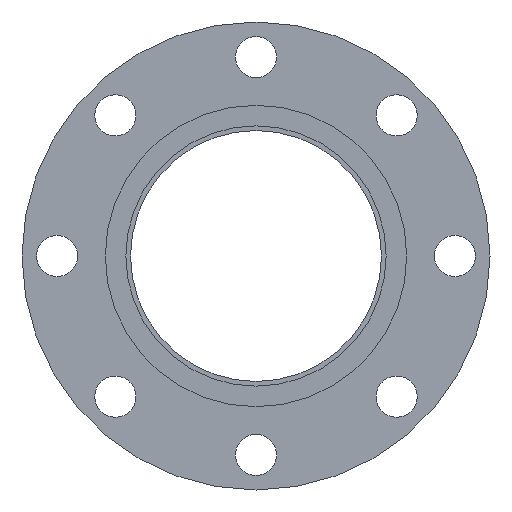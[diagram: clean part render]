
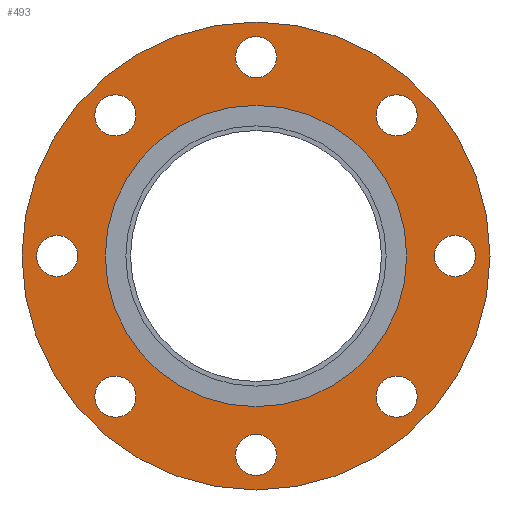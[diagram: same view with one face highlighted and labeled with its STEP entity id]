
A CAD part, left-side view. The second image highlights one B-rep face of the part: STEP entity #493.
In plain terms, the highlighted planar face has unit normal (-1, 0, 0).
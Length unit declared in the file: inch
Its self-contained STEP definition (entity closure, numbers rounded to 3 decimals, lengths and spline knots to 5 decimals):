
#49=FACE_BOUND('',#119,.T.);
#50=FACE_BOUND('',#120,.T.);
#51=FACE_BOUND('',#121,.T.);
#52=FACE_BOUND('',#122,.T.);
#53=FACE_BOUND('',#123,.T.);
#54=FACE_BOUND('',#124,.T.);
#55=FACE_BOUND('',#125,.T.);
#56=FACE_BOUND('',#126,.T.);
#57=FACE_BOUND('',#127,.T.);
#72=PLANE('',#571);
#92=FACE_OUTER_BOUND('',#118,.T.);
#118=EDGE_LOOP('',(#397,#398));
#119=EDGE_LOOP('',(#399));
#120=EDGE_LOOP('',(#400));
#121=EDGE_LOOP('',(#401));
#122=EDGE_LOOP('',(#402));
#123=EDGE_LOOP('',(#403));
#124=EDGE_LOOP('',(#404));
#125=EDGE_LOOP('',(#405));
#126=EDGE_LOOP('',(#406));
#127=EDGE_LOOP('',(#407,#408));
#173=CIRCLE('',#520,0.44);
#175=CIRCLE('',#523,0.44);
#177=CIRCLE('',#526,0.44);
#179=CIRCLE('',#529,0.44);
#181=CIRCLE('',#532,0.44);
#183=CIRCLE('',#535,0.44);
#185=CIRCLE('',#538,0.44);
#187=CIRCLE('',#541,0.44);
#206=CIRCLE('',#569,3.22);
#207=CIRCLE('',#570,3.22);
#208=CIRCLE('',#572,5.);
#209=CIRCLE('',#573,5.);
#217=VERTEX_POINT('',#776);
#219=VERTEX_POINT('',#782);
#221=VERTEX_POINT('',#788);
#223=VERTEX_POINT('',#794);
#225=VERTEX_POINT('',#800);
#227=VERTEX_POINT('',#806);
#229=VERTEX_POINT('',#812);
#231=VERTEX_POINT('',#818);
#250=VERTEX_POINT('',#870);
#251=VERTEX_POINT('',#871);
#252=VERTEX_POINT('',#876);
#253=VERTEX_POINT('',#877);
#262=EDGE_CURVE('',#217,#217,#173,.T.);
#265=EDGE_CURVE('',#219,#219,#175,.T.);
#268=EDGE_CURVE('',#221,#221,#177,.T.);
#271=EDGE_CURVE('',#223,#223,#179,.T.);
#274=EDGE_CURVE('',#225,#225,#181,.T.);
#277=EDGE_CURVE('',#227,#227,#183,.T.);
#280=EDGE_CURVE('',#229,#229,#185,.T.);
#283=EDGE_CURVE('',#231,#231,#187,.T.);
#306=EDGE_CURVE('',#250,#251,#206,.T.);
#307=EDGE_CURVE('',#251,#250,#207,.T.);
#309=EDGE_CURVE('',#252,#253,#208,.T.);
#310=EDGE_CURVE('',#253,#252,#209,.T.);
#397=ORIENTED_EDGE('',*,*,#309,.F.);
#398=ORIENTED_EDGE('',*,*,#310,.F.);
#399=ORIENTED_EDGE('',*,*,#262,.T.);
#400=ORIENTED_EDGE('',*,*,#265,.T.);
#401=ORIENTED_EDGE('',*,*,#268,.T.);
#402=ORIENTED_EDGE('',*,*,#271,.T.);
#403=ORIENTED_EDGE('',*,*,#274,.T.);
#404=ORIENTED_EDGE('',*,*,#277,.T.);
#405=ORIENTED_EDGE('',*,*,#280,.T.);
#406=ORIENTED_EDGE('',*,*,#283,.T.);
#407=ORIENTED_EDGE('',*,*,#306,.T.);
#408=ORIENTED_EDGE('',*,*,#307,.T.);
#493=ADVANCED_FACE('',(#92,#49,#50,#51,#52,#53,#54,#55,#56,#57),#72,.T.);
#520=AXIS2_PLACEMENT_3D('',#778,#604,#605);
#523=AXIS2_PLACEMENT_3D('',#784,#611,#612);
#526=AXIS2_PLACEMENT_3D('',#790,#618,#619);
#529=AXIS2_PLACEMENT_3D('',#796,#625,#626);
#532=AXIS2_PLACEMENT_3D('',#802,#632,#633);
#535=AXIS2_PLACEMENT_3D('',#808,#639,#640);
#538=AXIS2_PLACEMENT_3D('',#814,#646,#647);
#541=AXIS2_PLACEMENT_3D('',#820,#653,#654);
#569=AXIS2_PLACEMENT_3D('',#872,#713,#714);
#570=AXIS2_PLACEMENT_3D('',#873,#715,#716);
#571=AXIS2_PLACEMENT_3D('',#875,#718,#719);
#572=AXIS2_PLACEMENT_3D('',#878,#720,#721);
#573=AXIS2_PLACEMENT_3D('',#879,#722,#723);
#604=DIRECTION('center_axis',(1.,0.,0.));
#605=DIRECTION('ref_axis',(0.,0.707,0.707));
#611=DIRECTION('center_axis',(1.,0.,0.));
#612=DIRECTION('ref_axis',(0.,1.,0.));
#618=DIRECTION('center_axis',(1.,0.,0.));
#619=DIRECTION('ref_axis',(0.,0.707,-0.707));
#625=DIRECTION('center_axis',(1.,0.,0.));
#626=DIRECTION('ref_axis',(0.,0.,-1.));
#632=DIRECTION('center_axis',(1.,0.,0.));
#633=DIRECTION('ref_axis',(0.,-0.707,-0.707));
#639=DIRECTION('center_axis',(1.,0.,0.));
#640=DIRECTION('ref_axis',(0.,-1.,0.));
#646=DIRECTION('center_axis',(1.,0.,0.));
#647=DIRECTION('ref_axis',(0.,-0.707,0.707));
#653=DIRECTION('center_axis',(1.,0.,0.));
#654=DIRECTION('ref_axis',(0.,0.,1.));
#713=DIRECTION('center_axis',(1.,0.,0.));
#714=DIRECTION('ref_axis',(0.,0.,-1.));
#715=DIRECTION('center_axis',(1.,0.,0.));
#716=DIRECTION('ref_axis',(0.,0.,-1.));
#718=DIRECTION('center_axis',(-1.,0.,0.));
#719=DIRECTION('ref_axis',(0.,0.,1.));
#720=DIRECTION('center_axis',(1.,0.,0.));
#721=DIRECTION('ref_axis',(0.,0.,-1.));
#722=DIRECTION('center_axis',(1.,0.,0.));
#723=DIRECTION('ref_axis',(0.,0.,-1.));
#776=CARTESIAN_POINT('',(-0.9425,2.69408,-3.31633));
#778=CARTESIAN_POINT('Origin',(-0.9425,3.0052,-3.0052));
#782=CARTESIAN_POINT('',(-0.9425,-0.44,-4.25));
#784=CARTESIAN_POINT('Origin',(-0.9425,0.,-4.25));
#788=CARTESIAN_POINT('',(-0.9425,-3.31633,-2.69408));
#790=CARTESIAN_POINT('Origin',(-0.9425,-3.0052,-3.0052));
#794=CARTESIAN_POINT('',(-0.9425,-4.25,0.44));
#796=CARTESIAN_POINT('Origin',(-0.9425,-4.25,0.));
#800=CARTESIAN_POINT('',(-0.9425,-2.69408,3.31633));
#802=CARTESIAN_POINT('Origin',(-0.9425,-3.0052,3.0052));
#806=CARTESIAN_POINT('',(-0.9425,0.44,4.25));
#808=CARTESIAN_POINT('Origin',(-0.9425,0.,4.25));
#812=CARTESIAN_POINT('',(-0.9425,3.31633,2.69408));
#814=CARTESIAN_POINT('Origin',(-0.9425,3.0052,3.0052));
#818=CARTESIAN_POINT('',(-0.9425,4.25,-0.44));
#820=CARTESIAN_POINT('Origin',(-0.9425,4.25,0.));
#870=CARTESIAN_POINT('',(-0.9425,3.22,0.));
#871=CARTESIAN_POINT('',(-0.9425,-3.22,0.));
#872=CARTESIAN_POINT('Origin',(-0.9425,0.,
0.));
#873=CARTESIAN_POINT('Origin',(-0.9425,0.,
0.));
#875=CARTESIAN_POINT('Origin',(-0.9425,5.,0.));
#876=CARTESIAN_POINT('',(-0.9425,5.,0.));
#877=CARTESIAN_POINT('',(-0.9425,-5.,0.));
#878=CARTESIAN_POINT('Origin',(-0.9425,0.,0.));
#879=CARTESIAN_POINT('Origin',(-0.9425,0.,0.));
